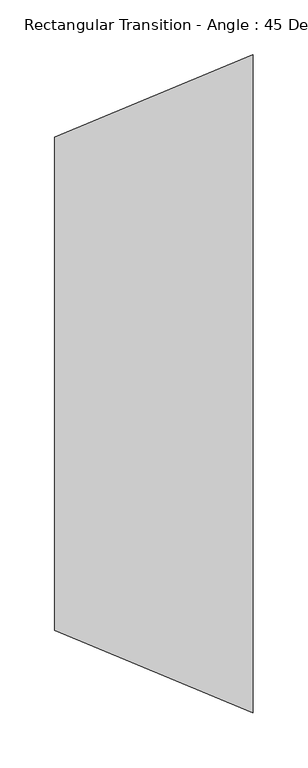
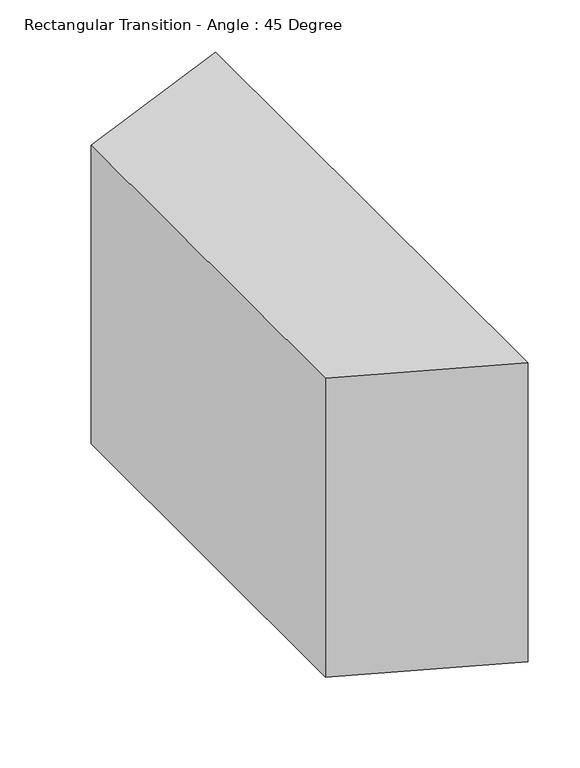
"""IFC4 building model written with IfcOpenShell, lengths in millimetres: duct fitting geometry, Rectangular Transition - Angle : 45 Degree."""

from ifc_helpers import new_model, si_unit, frame, origin, place, context, project, spatial, polyline, outline, extrude, source, transform, mapped, element, save


def rectangular_transition_angle_45_degree_6ff39442(model_context):
    return source(origin(), model_context, "Body", "SweptSolid", [
        extrude(outline(polyline([(0.0, -225.0), (0.0, 225.0), (181.0660172, 300.0), (181.0660172, -300.0), (0.0, -225.0)])), frame((0.0, 0.0, -175.0), z_axis=(0.0, 0.0, 1.0), x_axis=(1.0, 0.0, 0.0)), (0.0, 0.0, 1.0), 350.0),
    ])


if __name__ == "__main__":
    model = new_model("IFC4")
    model_context = context("Model", 3, world=origin())
    ifc_project = project(units=[si_unit("LENGTHUNIT", "METRE", prefix="MILLI")], contexts=[model_context])
    site = spatial("IfcSite", under=ifc_project)
    building = spatial("IfcBuilding", under=site)
    placement = place(None, origin())
    rectangular_transition_angle_45_degree_shape = rectangular_transition_angle_45_degree_6ff39442(model_context)
    element("IfcDuctFitting", 1, ObjectType="Rectangular Transition - Angle : 45 Degree", at=placement, inside=building, context=model_context, shape_type="MappedRepresentation", body=[
        mapped(rectangular_transition_angle_45_degree_shape, transform((0.0, 0.0, 0.0), x_axis=(1.0, 0.0, 0.0), y_axis=(0.0, 1.0, 0.0), z_axis=(0.0, 0.0, 1.0))),
    ])
    save(model, "model.ifc")
